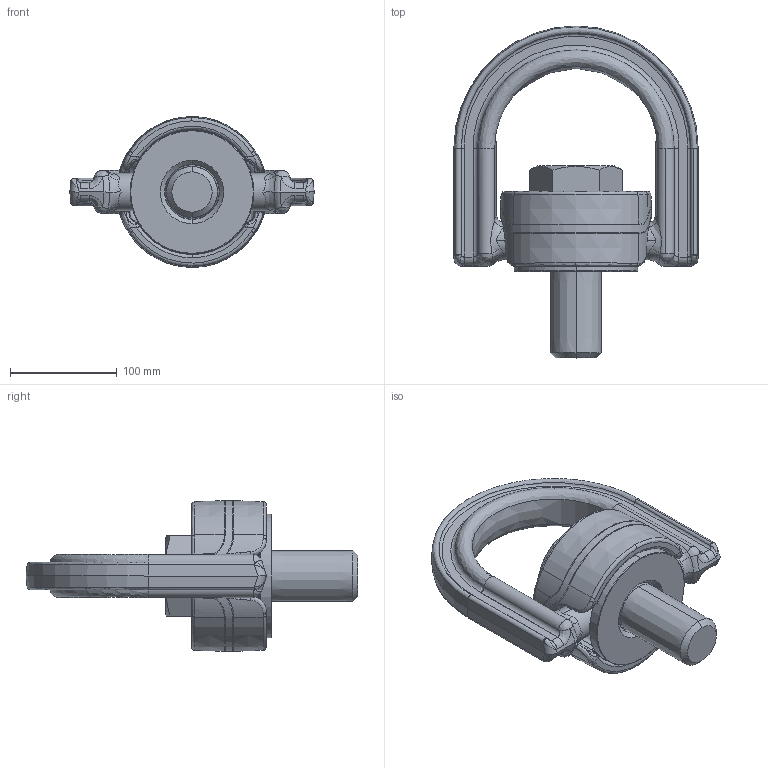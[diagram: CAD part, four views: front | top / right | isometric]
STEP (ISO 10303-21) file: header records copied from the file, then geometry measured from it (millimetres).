
FILE_DESCRIPTION (( 'STEP AP203' ), '1' );
FILE_NAME ('Z101748.step', '2016-04-04T11:16:14', ( '' ), ( '' ), 'SwSTEP 2.0', 'SolidWorks 2008', '' );
FILE_SCHEMA (( 'CONFIG_CONTROL_DESIGN' ));
Length unit declared in the file: millimetre
Products named in the file (6): Z768075; Z101748; Z776044; Z768030_SMITT; Z768661; Z7681248
Assembly tree (5 placements, depth 2):
  Z101748
    Z768661
    Z7681248
    Z776044
    Z768075
    Z768030_SMITT
Bounding box: 229 x 311.1 x 141.5 mm (x, y, z)
Volume: 1849488.2 mm3; surface area: 244720.1 mm2
Topology: 5 solids, 5 shells, 431 faces, 1022 edges, 594 vertices
Faces by surface type: bspline 246, cylinder 94, plane 59, cone 30, torus 2
Entity records: 35042 total; most frequent: CARTESIAN_POINT 26776, ORIENTED_EDGE 2016, EDGE_CURVE 1008, DIRECTION 1006, VERTEX_POINT 594, B_SPLINE_CURVE_WITH_KNOTS 517, EDGE_LOOP 442, ADVANCED_FACE 431
